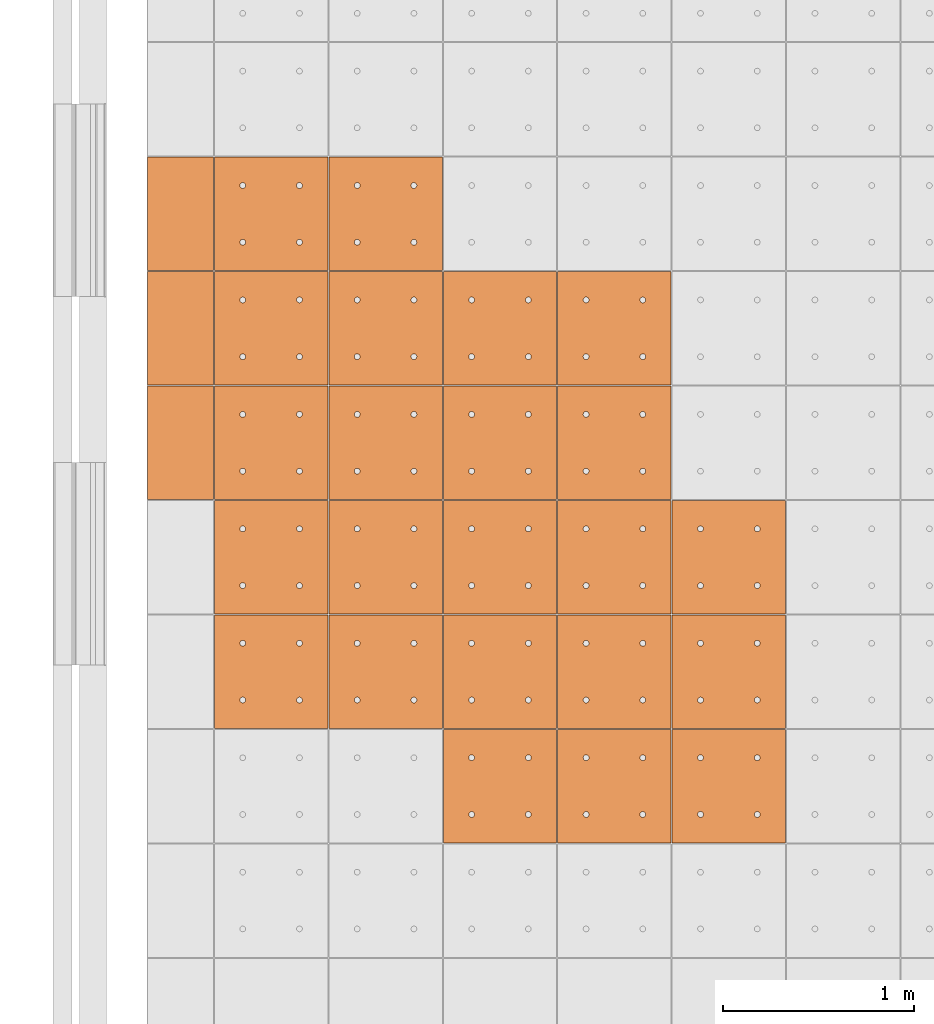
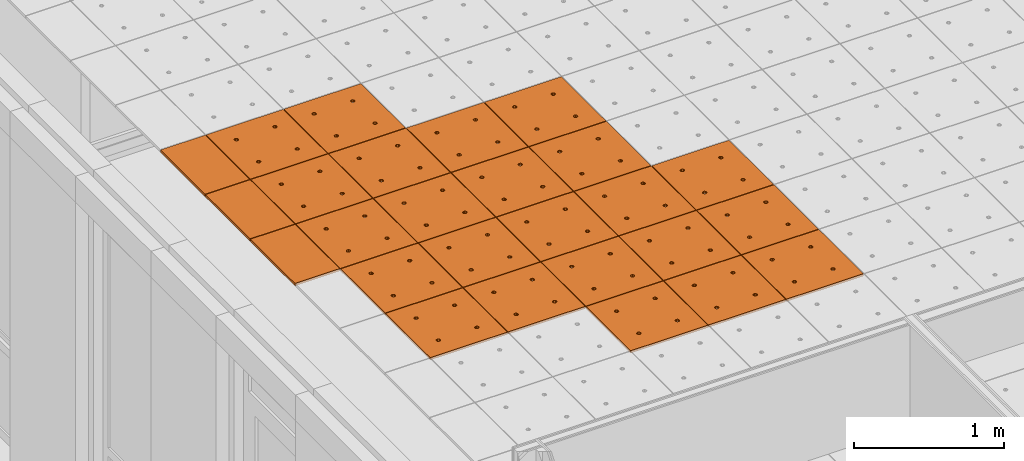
# One storey, part 245 of 338: 26 proxies, 1 element without a shape of its own.
"""IFC2X3 building model written with IfcOpenShell, lengths in millimetres."""

from ifc_helpers import new_model, entity, si_unit, converted_unit, derived_unit, money_unit, direction, frame, origin_with_axes, place, context, subcontext, project, spatial, faceted_brep, source, transform, mapped, material, type_object, type_shapes, element, aggregate, save


model = new_model("IFC2X3")

# Units and contexts
model_context = context("Model", 3, precision=0.01, world=origin_with_axes(), true_north=direction((0.0, 1.0)))
plan_context = context("Plan", 3, precision=0.01, world=origin_with_axes(), true_north=direction((0.0, 1.0)))
body_context = subcontext(model_context, "Body", "Model", "MODEL_VIEW")
ifc_project = project(units=[si_unit("LENGTHUNIT", "METRE", prefix="MILLI"), si_unit("AREAUNIT", "SQUARE_METRE"), si_unit("VOLUMEUNIT", "CUBIC_METRE"), converted_unit("PLANEANGLEUNIT", "DEGREE", entity("IfcPlaneAngleMeasure", 0.0174532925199), si_unit("PLANEANGLEUNIT", "RADIAN"), dimensions=[0, 0, 0, 0, 0, 0, 0]), money_unit("EUR"), converted_unit("TIMEUNIT", "Year", entity("IfcTimeMeasure", 31556926.0), si_unit("TIMEUNIT", "SECOND"), dimensions=[0, 0, 1, 0, 0, 0, 0]), si_unit("MASSUNIT", "GRAM", prefix="KILO"), si_unit("THERMODYNAMICTEMPERATUREUNIT", "DEGREE_CELSIUS"), si_unit("LUMINOUSINTENSITYUNIT", "LUMEN"), si_unit("ENERGYUNIT", "JOULE", prefix="MEGA"), derived_unit("THERMALCONDUCTANCEUNIT", [(si_unit("POWERUNIT", "WATT"), 1), (si_unit("LENGTHUNIT", "METRE"), -1), (si_unit("THERMODYNAMICTEMPERATUREUNIT", "KELVIN"), -1)]), derived_unit("SPECIFICHEATCAPACITYUNIT", [(si_unit("ENERGYUNIT", "JOULE"), 1), (si_unit("MASSUNIT", "GRAM", prefix="KILO"), -1), (si_unit("THERMODYNAMICTEMPERATUREUNIT", "KELVIN"), -1)]), derived_unit("MASSDENSITYUNIT", [(si_unit("MASSUNIT", "GRAM", prefix="KILO"), 1), (si_unit("VOLUMEUNIT", "CUBIC_METRE"), -1)])], contexts=[model_context, plan_context])

# Site, building, storey
site_placement = place(None, origin_with_axes())
site = spatial("IfcSite", under=ifc_project, at=site_placement, Name="Fortuinstraat Woensdrecht", CompositionType="ELEMENT")
building_placement = place(site_placement, origin_with_axes())
building = spatial("IfcBuilding", under=site, at=building_placement, Name="IKC Fortuna", CompositionType="ELEMENT")
storey_placement = place(building_placement, origin_with_axes())
storey = spatial("IfcBuildingStorey", under=building, at=storey_placement, Name="00 begane grond", CompositionType="ELEMENT", Elevation=0.0)

# Covering, proxies
covering_type = type_object("IfcCoveringType", Name="Curtain Wall Type", PredefinedType="CEILING")
covering_placement = place(storey_placement, frame((15059.4416165, 34009.703821, 3210.0), z_axis=(0.0, 0.0, 1.0), x_axis=(1.0, 0.0, 0.0)))
covering = element("IfcCovering", 1, at=covering_placement, inside=storey, type_object=covering_type, Name="45_Plafondafwerking_P01", PredefinedType="CEILING")
ifc_material = material(Name="Gipsplaat")
building_element_proxy_type_1 = type_object("IfcBuildingElementProxyType", Name="Distinct Panel 600 x 600 x 20", PredefinedType="NOTDEFINED")
shared_shape_1 = source(origin_with_axes(), body_context, "Body", "Brep", [
    faceted_brep([(2.49999999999, 2.49999999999, -10.0), (300.0, 2.49999999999, -10.0), (300.0, 2.49999999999, 10.0), (2.49999999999, 2.49999999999, 10.0), (2.49999999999, 300.0, -10.0), (2.49999999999, 597.5, -10.0), (300.0, 597.5, -10.0), (597.5, 597.5, -10.0), (597.5, 300.0, -10.0), (597.5, 2.49999999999, -10.0), (166.25, 450.06232995, -10.0), (165.79423259, 452.64711538, -10.0), (164.896546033, 455.11348892, -10.0), (163.58421608, 457.38651108, -10.0), (161.897117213, 459.39711721, -10.0), (159.886511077, 461.08421608, -10.0), (157.613488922, 462.39654603, -10.0), (155.147115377, 463.29423259, -10.0), (152.562329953, 463.75, -10.0), (149.937670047, 463.75, -10.0), (147.352884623, 463.29423259, -10.0), (144.886511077, 462.39654603, -10.0), (142.613488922, 461.08421608, -10.0), (140.602882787, 459.39711721, -10.0), (138.91578392, 457.38651108, -10.0), (137.603453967, 455.11348892, -10.0), (136.705767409, 452.64711538, -10.0), (136.25, 450.06232995, -10.0), (136.25, 448.75, -10.0), (136.25, 447.43767005, -10.0), (136.705767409, 444.85288462, -10.0), (137.603453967, 442.38651108, -10.0), (138.91578392, 440.11348892, -10.0), (140.602882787, 438.10288279, -10.0), (142.613488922, 436.41578392, -10.0), (144.886511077, 435.10345397, -10.0), (147.352884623, 434.20576741, -10.0), (149.937670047, 433.75, -10.0), (152.562329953, 433.75, -10.0), (155.147115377, 434.20576741, -10.0), (157.613488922, 435.10345397, -10.0), (159.886511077, 436.41578392, -10.0), (161.897117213, 438.10288279, -10.0), (163.58421608, 440.11348892, -10.0), (164.896546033, 442.38651108, -10.0), (165.79423259, 444.85288462, -10.0), (166.25, 447.43767005, -10.0), (463.75, 450.06232995, -10.0), (463.29423259, 452.64711538, -10.0), (462.396546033, 455.11348892, -10.0), (461.08421608, 457.38651108, -10.0), (459.397117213, 459.39711721, -10.0), (457.386511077, 461.08421608, -10.0), (455.113488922, 462.39654603, -10.0), (452.647115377, 463.29423259, -10.0), (450.062329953, 463.75, -10.0), (447.437670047, 463.75, -10.0), (444.852884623, 463.29423259, -10.0), (442.386511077, 462.39654603, -10.0), (440.113488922, 461.08421608, -10.0), (438.102882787, 459.39711721, -10.0), (436.41578392, 457.38651108, -10.0), (435.103453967, 455.11348892, -10.0), (434.205767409, 452.64711538, -10.0), (433.75, 450.06232995, -10.0), (433.75, 448.75, -10.0), (433.75, 447.43767005, -10.0), (434.205767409, 444.85288462, -10.0), (435.103453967, 442.38651108, -10.0), (436.41578392, 440.11348892, -10.0), (438.102882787, 438.10288279, -10.0), (440.113488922, 436.41578392, -10.0), (442.386511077, 435.10345397, -10.0), (444.852884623, 434.20576741, -10.0), (447.437670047, 433.75, -10.0), (450.062329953, 433.75, -10.0), (452.647115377, 434.20576741, -10.0), (455.113488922, 435.10345397, -10.0), (457.386511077, 436.41578392, -10.0), (459.397117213, 438.10288279, -10.0), (461.08421608, 440.11348892, -10.0), (462.396546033, 442.38651108, -10.0), (463.29423259, 444.85288462, -10.0), (463.75, 447.43767005, -10.0), (463.75, 152.56232995, -10.0), (463.29423259, 155.14711538, -10.0), (462.396546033, 157.61348892, -10.0), (461.08421608, 159.88651108, -10.0), (459.397117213, 161.89711721, -10.0), (457.386511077, 163.58421608, -10.0), (455.113488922, 164.89654603, -10.0), (452.647115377, 165.79423259, -10.0), (450.062329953, 166.25, -10.0), (447.437670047, 166.25, -10.0), (444.852884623, 165.79423259, -10.0), (442.386511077, 164.89654603, -10.0), (440.113488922, 163.58421608, -10.0), (438.102882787, 161.89711721, -10.0), (436.41578392, 159.88651108, -10.0), (435.103453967, 157.61348892, -10.0), (434.205767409, 155.14711538, -10.0), (433.75, 152.56232995, -10.0), (433.75, 151.25, -10.0), (433.75, 149.93767005, -10.0), (434.205767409, 147.35288462, -10.0), (435.103453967, 144.88651108, -10.0), (436.41578392, 142.61348892, -10.0), (438.102882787, 140.60288279, -10.0), (440.113488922, 138.91578392, -10.0), (442.386511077, 137.60345397, -10.0), (444.852884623, 136.70576741, -10.0), (447.437670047, 136.25, -10.0), (450.062329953, 136.25, -10.0), (452.647115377, 136.70576741, -10.0), (455.113488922, 137.60345397, -10.0), (457.386511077, 138.91578392, -10.0), (459.397117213, 140.60288279, -10.0), (461.08421608, 142.61348892, -10.0), (462.396546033, 144.88651108, -10.0), (463.29423259, 147.35288462, -10.0), (463.75, 149.93767005, -10.0), (166.25, 152.56232995, -10.0), (165.79423259, 155.14711538, -10.0), (164.896546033, 157.61348892, -10.0), (163.58421608, 159.88651108, -10.0), (161.897117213, 161.89711721, -10.0), (159.886511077, 163.58421608, -10.0), (157.613488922, 164.89654603, -10.0), (155.147115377, 165.79423259, -10.0), (152.562329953, 166.25, -10.0), (149.937670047, 166.25, -10.0), (147.352884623, 165.79423259, -10.0), (144.886511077, 164.89654603, -10.0), (142.613488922, 163.58421608, -10.0), (140.602882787, 161.89711721, -10.0), (138.91578392, 159.88651108, -10.0), (137.603453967, 157.61348892, -10.0), (136.705767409, 155.14711538, -10.0), (136.25, 152.56232995, -10.0), (136.25, 151.25, -10.0), (136.25, 149.93767005, -10.0), (136.705767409, 147.35288462, -10.0), (137.603453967, 144.88651108, -10.0), (138.91578392, 142.61348892, -10.0), (140.602882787, 140.60288279, -10.0), (142.613488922, 138.91578392, -10.0), (144.886511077, 137.60345397, -10.0), (147.352884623, 136.70576741, -10.0), (149.937670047, 136.25, -10.0), (152.562329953, 136.25, -10.0), (155.147115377, 136.70576741, -10.0), (157.613488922, 137.60345397, -10.0), (159.886511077, 138.91578392, -10.0), (161.897117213, 140.60288279, -10.0), (163.58421608, 142.61348892, -10.0), (164.896546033, 144.88651108, -10.0), (165.79423259, 147.35288462, -10.0), (166.25, 149.93767005, -10.0), (597.5, 2.49999999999, 10.0), (597.5, 300.0, 10.0), (597.5, 597.5, 10.0), (300.0, 597.5, 10.0), (2.49999999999, 597.5, 10.0), (2.49999999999, 300.0, 10.0), (166.25, 450.06232995, 10.0), (166.25, 447.43767005, 10.0), (165.79423259, 444.85288462, 10.0), (164.896546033, 442.38651108, 10.0), (163.58421608, 440.11348892, 10.0), (161.897117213, 438.10288279, 10.0), (159.886511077, 436.41578392, 10.0), (157.613488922, 435.10345397, 10.0), (155.147115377, 434.20576741, 10.0), (152.562329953, 433.75, 10.0), (149.937670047, 433.75, 10.0), (147.352884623, 434.20576741, 10.0), (144.886511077, 435.10345397, 10.0), (142.613488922, 436.41578392, 10.0), (140.602882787, 438.10288279, 10.0), (138.91578392, 440.11348892, 10.0), (137.603453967, 442.38651108, 10.0), (136.705767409, 444.85288462, 10.0), (136.25, 447.43767005, 10.0), (136.25, 448.75, 10.0), (136.25, 450.06232995, 10.0), (136.705767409, 452.64711538, 10.0), (137.603453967, 455.11348892, 10.0), (138.91578392, 457.38651108, 10.0), (140.602882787, 459.39711721, 10.0), (142.613488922, 461.08421608, 10.0), (144.886511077, 462.39654603, 10.0), (147.352884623, 463.29423259, 10.0), (149.937670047, 463.75, 10.0), (152.562329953, 463.75, 10.0), (155.147115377, 463.29423259, 10.0), (157.613488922, 462.39654603, 10.0), (159.886511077, 461.08421608, 10.0), (161.897117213, 459.39711721, 10.0), (163.58421608, 457.38651108, 10.0), (164.896546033, 455.11348892, 10.0), (165.79423259, 452.64711538, 10.0), (463.75, 450.06232995, 10.0), (463.75, 447.43767005, 10.0), (463.29423259, 444.85288462, 10.0), (462.396546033, 442.38651108, 10.0), (461.08421608, 440.11348892, 10.0), (459.397117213, 438.10288279, 10.0), (457.386511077, 436.41578392, 10.0), (455.113488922, 435.10345397, 10.0), (452.647115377, 434.20576741, 10.0), (450.062329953, 433.75, 10.0), (447.437670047, 433.75, 10.0), (444.852884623, 434.20576741, 10.0), (442.386511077, 435.10345397, 10.0), (440.113488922, 436.41578392, 10.0), (438.102882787, 438.10288279, 10.0), (436.41578392, 440.11348892, 10.0), (435.103453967, 442.38651108, 10.0), (434.205767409, 444.85288462, 10.0), (433.75, 447.43767005, 10.0), (433.75, 448.75, 10.0), (433.75, 450.06232995, 10.0), (434.205767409, 452.64711538, 10.0), (435.103453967, 455.11348892, 10.0), (436.41578392, 457.38651108, 10.0), (438.102882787, 459.39711721, 10.0), (440.113488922, 461.08421608, 10.0), (442.386511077, 462.39654603, 10.0), (444.852884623, 463.29423259, 10.0), (447.437670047, 463.75, 10.0), (450.062329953, 463.75, 10.0), (452.647115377, 463.29423259, 10.0), (455.113488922, 462.39654603, 10.0), (457.386511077, 461.08421608, 10.0), (459.397117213, 459.39711721, 10.0), (461.08421608, 457.38651108, 10.0), (462.396546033, 455.11348892, 10.0), (463.29423259, 452.64711538, 10.0), (463.75, 152.56232995, 10.0), (463.75, 149.93767005, 10.0), (463.29423259, 147.35288462, 10.0), (462.396546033, 144.88651108, 10.0), (461.08421608, 142.61348892, 10.0), (459.397117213, 140.60288279, 10.0), (457.386511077, 138.91578392, 10.0), (455.113488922, 137.60345397, 10.0), (452.647115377, 136.70576741, 10.0), (450.062329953, 136.25, 10.0), (447.437670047, 136.25, 10.0), (444.852884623, 136.70576741, 10.0), (442.386511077, 137.60345397, 10.0), (440.113488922, 138.91578392, 10.0), (438.102882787, 140.60288279, 10.0), (436.41578392, 142.61348892, 10.0), (435.103453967, 144.88651108, 10.0), (434.205767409, 147.35288462, 10.0), (433.75, 149.93767005, 10.0), (433.75, 151.25, 10.0), (433.75, 152.56232995, 10.0), (434.205767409, 155.14711538, 10.0), (435.103453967, 157.61348892, 10.0), (436.41578392, 159.88651108, 10.0), (438.102882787, 161.89711721, 10.0), (440.113488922, 163.58421608, 10.0), (442.386511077, 164.89654603, 10.0), (444.852884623, 165.79423259, 10.0), (447.437670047, 166.25, 10.0), (450.062329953, 166.25, 10.0), (452.647115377, 165.79423259, 10.0), (455.113488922, 164.89654603, 10.0), (457.386511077, 163.58421608, 10.0), (459.397117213, 161.89711721, 10.0), (461.08421608, 159.88651108, 10.0), (462.396546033, 157.61348892, 10.0), (463.29423259, 155.14711538, 10.0), (166.25, 152.56232995, 10.0), (166.25, 149.93767005, 10.0), (165.79423259, 147.35288462, 10.0), (164.896546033, 144.88651108, 10.0), (163.58421608, 142.61348892, 10.0), (161.897117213, 140.60288279, 10.0), (159.886511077, 138.91578392, 10.0), (157.613488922, 137.60345397, 10.0), (155.147115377, 136.70576741, 10.0), (152.562329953, 136.25, 10.0), (149.937670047, 136.25, 10.0), (147.352884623, 136.70576741, 10.0), (144.886511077, 137.60345397, 10.0), (142.613488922, 138.91578392, 10.0), (140.602882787, 140.60288279, 10.0), (138.91578392, 142.61348892, 10.0), (137.603453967, 144.88651108, 10.0), (136.705767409, 147.35288462, 10.0), (136.25, 149.93767005, 10.0), (136.25, 151.25, 10.0), (136.25, 152.56232995, 10.0), (136.705767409, 155.14711538, 10.0), (137.603453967, 157.61348892, 10.0), (138.91578392, 159.88651108, 10.0), (140.602882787, 161.89711721, 10.0), (142.613488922, 163.58421608, 10.0), (144.886511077, 164.89654603, 10.0), (147.352884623, 165.79423259, 10.0), (149.937670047, 166.25, 10.0), (152.562329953, 166.25, 10.0), (155.147115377, 165.79423259, 10.0), (157.613488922, 164.89654603, 10.0), (159.886511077, 163.58421608, 10.0), (161.897117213, 161.89711721, 10.0), (163.58421608, 159.88651108, 10.0), (164.896546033, 157.61348892, 10.0), (165.79423259, 155.14711538, 10.0)], [[[0, 1, 2, 3]], [[0, 4, 5, 6, 7, 8, 9, 1], [10, 11, 12, 13, 14, 15, 16, 17, 18, 19, 20, 21, 22, 23, 24, 25, 26, 27, 28, 29, 30, 31, 32, 33, 34, 35, 36, 37, 38, 39, 40, 41, 42, 43, 44, 45, 46], [47, 48, 49, 50, 51, 52, 53, 54, 55, 56, 57, 58, 59, 60, 61, 62, 63, 64, 65, 66, 67, 68, 69, 70, 71, 72, 73, 74, 75, 76, 77, 78, 79, 80, 81, 82, 83], [84, 85, 86, 87, 88, 89, 90, 91, 92, 93, 94, 95, 96, 97, 98, 99, 100, 101, 102, 103, 104, 105, 106, 107, 108, 109, 110, 111, 112, 113, 114, 115, 116, 117, 118, 119, 120], [121, 122, 123, 124, 125, 126, 127, 128, 129, 130, 131, 132, 133, 134, 135, 136, 137, 138, 139, 140, 141, 142, 143, 144, 145, 146, 147, 148, 149, 150, 151, 152, 153, 154, 155, 156, 157]], [[1, 9, 158, 2]], [[3, 2, 158, 159, 160, 161, 162, 163], [164, 165, 166, 167, 168, 169, 170, 171, 172, 173, 174, 175, 176, 177, 178, 179, 180, 181, 182, 183, 184, 185, 186, 187, 188, 189, 190, 191, 192, 193, 194, 195, 196, 197, 198, 199, 200], [201, 202, 203, 204, 205, 206, 207, 208, 209, 210, 211, 212, 213, 214, 215, 216, 217, 218, 219, 220, 221, 222, 223, 224, 225, 226, 227, 228, 229, 230, 231, 232, 233, 234, 235, 236, 237], [238, 239, 240, 241, 242, 243, 244, 245, 246, 247, 248, 249, 250, 251, 252, 253, 254, 255, 256, 257, 258, 259, 260, 261, 262, 263, 264, 265, 266, 267, 268, 269, 270, 271, 272, 273, 274], [275, 276, 277, 278, 279, 280, 281, 282, 283, 284, 285, 286, 287, 288, 289, 290, 291, 292, 293, 294, 295, 296, 297, 298, 299, 300, 301, 302, 303, 304, 305, 306, 307, 308, 309, 310, 311]], [[4, 0, 3, 163]], [[5, 4, 163, 162]], [[6, 5, 162, 161]], [[7, 6, 161, 160]], [[8, 7, 160, 159]], [[9, 8, 159, 158]], [[11, 10, 164, 200]], [[12, 11, 200, 199]], [[13, 12, 199, 198]], [[14, 13, 198, 197]], [[15, 14, 197, 196]], [[16, 15, 196, 195]], [[17, 16, 195, 194]], [[18, 17, 194, 193]], [[19, 18, 193, 192]], [[20, 19, 192, 191]], [[21, 20, 191, 190]], [[22, 21, 190, 189]], [[23, 22, 189, 188]], [[24, 23, 188, 187]], [[25, 24, 187, 186]], [[26, 25, 186, 185]], [[27, 26, 185, 184]], [[28, 27, 184, 183]], [[29, 28, 183, 182]], [[30, 29, 182, 181]], [[31, 30, 181, 180]], [[32, 31, 180, 179]], [[33, 32, 179, 178]], [[34, 33, 178, 177]], [[35, 34, 177, 176]], [[36, 35, 176, 175]], [[37, 36, 175, 174]], [[38, 37, 174, 173]], [[39, 38, 173, 172]], [[40, 39, 172, 171]], [[41, 40, 171, 170]], [[42, 41, 170, 169]], [[43, 42, 169, 168]], [[44, 43, 168, 167]], [[45, 44, 167, 166]], [[46, 45, 166, 165]], [[10, 46, 165, 164]], [[48, 47, 201, 237]], [[49, 48, 237, 236]], [[50, 49, 236, 235]], [[51, 50, 235, 234]], [[52, 51, 234, 233]], [[53, 52, 233, 232]], [[54, 53, 232, 231]], [[55, 54, 231, 230]], [[56, 55, 230, 229]], [[57, 56, 229, 228]], [[58, 57, 228, 227]], [[59, 58, 227, 226]], [[60, 59, 226, 225]], [[61, 60, 225, 224]], [[62, 61, 224, 223]], [[63, 62, 223, 222]], [[64, 63, 222, 221]], [[65, 64, 221, 220]], [[66, 65, 220, 219]], [[67, 66, 219, 218]], [[68, 67, 218, 217]], [[69, 68, 217, 216]], [[70, 69, 216, 215]], [[71, 70, 215, 214]], [[72, 71, 214, 213]], [[73, 72, 213, 212]], [[74, 73, 212, 211]], [[75, 74, 211, 210]], [[76, 75, 210, 209]], [[77, 76, 209, 208]], [[78, 77, 208, 207]], [[79, 78, 207, 206]], [[80, 79, 206, 205]], [[81, 80, 205, 204]], [[82, 81, 204, 203]], [[83, 82, 203, 202]], [[47, 83, 202, 201]], [[85, 84, 238, 274]], [[86, 85, 274, 273]], [[87, 86, 273, 272]], [[88, 87, 272, 271]], [[89, 88, 271, 270]], [[90, 89, 270, 269]], [[91, 90, 269, 268]], [[92, 91, 268, 267]], [[93, 92, 267, 266]], [[94, 93, 266, 265]], [[95, 94, 265, 264]], [[96, 95, 264, 263]], [[97, 96, 263, 262]], [[98, 97, 262, 261]], [[99, 98, 261, 260]], [[100, 99, 260, 259]], [[101, 100, 259, 258]], [[102, 101, 258, 257]], [[103, 102, 257, 256]], [[104, 103, 256, 255]], [[105, 104, 255, 254]], [[106, 105, 254, 253]], [[107, 106, 253, 252]], [[108, 107, 252, 251]], [[109, 108, 251, 250]], [[110, 109, 250, 249]], [[111, 110, 249, 248]], [[112, 111, 248, 247]], [[113, 112, 247, 246]], [[114, 113, 246, 245]], [[115, 114, 245, 244]], [[116, 115, 244, 243]], [[117, 116, 243, 242]], [[118, 117, 242, 241]], [[119, 118, 241, 240]], [[120, 119, 240, 239]], [[84, 120, 239, 238]], [[122, 121, 275, 311]], [[123, 122, 311, 310]], [[124, 123, 310, 309]], [[125, 124, 309, 308]], [[126, 125, 308, 307]], [[127, 126, 307, 306]], [[128, 127, 306, 305]], [[129, 128, 305, 304]], [[130, 129, 304, 303]], [[131, 130, 303, 302]], [[132, 131, 302, 301]], [[133, 132, 301, 300]], [[134, 133, 300, 299]], [[135, 134, 299, 298]], [[136, 135, 298, 297]], [[137, 136, 297, 296]], [[138, 137, 296, 295]], [[139, 138, 295, 294]], [[140, 139, 294, 293]], [[141, 140, 293, 292]], [[142, 141, 292, 291]], [[143, 142, 291, 290]], [[144, 143, 290, 289]], [[145, 144, 289, 288]], [[146, 145, 288, 287]], [[147, 146, 287, 286]], [[148, 147, 286, 285]], [[149, 148, 285, 284]], [[150, 149, 284, 283]], [[151, 150, 283, 282]], [[152, 151, 282, 281]], [[153, 152, 281, 280]], [[154, 153, 280, 279]], [[155, 154, 279, 278]], [[156, 155, 278, 277]], [[157, 156, 277, 276]], [[121, 157, 276, 275]]]),
])
type_shapes(building_element_proxy_type_1, [shared_shape_1])
proxy_1_placement = place(covering_placement, frame((600.0, -4800.0, 1.56763491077e-10), z_axis=(0.0, 0.0, 1.0), x_axis=(1.0, 0.0, 0.0)))
proxy_1 = element("IfcBuildingElementProxy", 2, at=proxy_1_placement, type_object=building_element_proxy_type_1, material=ifc_material, Name="__Panel-D", context=body_context, shape_type="MappedRepresentation", body=[
    mapped(shared_shape_1, transform((300.0, 300.0, 0.0), x_axis=(-1.0, 0.0, 0.0), y_axis=(0.0, -1.0, 0.0), z_axis=(0.0, 0.0, 1.0))),
])
proxy_2_placement = place(covering_placement, frame((-600.0, -4200.0, 1.95843341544e-10), z_axis=(0.0, 0.0, 1.0), x_axis=(1.0, 0.0, 0.0)))
proxy_2 = element("IfcBuildingElementProxy", 3, at=proxy_2_placement, type_object=building_element_proxy_type_1, material=ifc_material, Name="__Panel-D", context=body_context, shape_type="MappedRepresentation", body=[
    mapped(shared_shape_1, transform((300.0, 300.0, 0.0), x_axis=(-1.0, 0.0, 0.0), y_axis=(0.0, -1.0, 0.0), z_axis=(0.0, 0.0, 1.0))),
])
proxy_3_placement = place(covering_placement, frame((-600.0, -3600.0, 1.95843341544e-10), z_axis=(0.0, 0.0, 1.0), x_axis=(1.0, 0.0, 0.0)))
proxy_3 = element("IfcBuildingElementProxy", 4, at=proxy_3_placement, type_object=building_element_proxy_type_1, material=ifc_material, Name="__Panel-D", context=body_context, shape_type="MappedRepresentation", body=[
    mapped(shared_shape_1, transform((300.0, 300.0, 0.0), x_axis=(-1.0, 0.0, 0.0), y_axis=(0.0, -1.0, 0.0), z_axis=(0.0, 0.0, 1.0))),
])
proxy_4_placement = place(covering_placement, frame((1200.0, -4800.0, 1.37223565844e-10), z_axis=(0.0, 0.0, 1.0), x_axis=(1.0, 0.0, 0.0)))
proxy_4 = element("IfcBuildingElementProxy", 5, at=proxy_4_placement, type_object=building_element_proxy_type_1, material=ifc_material, Name="__Panel-D", context=body_context, shape_type="MappedRepresentation", body=[
    mapped(shared_shape_1, transform((300.0, 300.0, 0.0), x_axis=(-1.0, 0.0, 0.0), y_axis=(0.0, -1.0, 0.0), z_axis=(0.0, 0.0, 1.0))),
])
proxy_5_placement = place(covering_placement, frame((0.0, -4200.0, 1.7630341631e-10), z_axis=(0.0, 0.0, 1.0), x_axis=(1.0, 0.0, 0.0)))
proxy_5 = element("IfcBuildingElementProxy", 6, at=proxy_5_placement, type_object=building_element_proxy_type_1, material=ifc_material, Name="__Panel-D", context=body_context, shape_type="MappedRepresentation", body=[
    mapped(shared_shape_1, transform((300.0, 300.0, 0.0), x_axis=(-1.0, 0.0, 0.0), y_axis=(0.0, -1.0, 0.0), z_axis=(0.0, 0.0, 1.0))),
])
proxy_6_placement = place(covering_placement, frame((0.0, -3600.0, 1.7630341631e-10), z_axis=(0.0, 0.0, 1.0), x_axis=(1.0, 0.0, 0.0)))
proxy_6 = element("IfcBuildingElementProxy", 7, at=proxy_6_placement, type_object=building_element_proxy_type_1, material=ifc_material, Name="__Panel-D", context=body_context, shape_type="MappedRepresentation", body=[
    mapped(shared_shape_1, transform((300.0, 300.0, 0.0), x_axis=(-1.0, 0.0, 0.0), y_axis=(0.0, -1.0, 0.0), z_axis=(0.0, 0.0, 1.0))),
])
proxy_7_placement = place(covering_placement, frame((600.0, -4200.0, 1.56763491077e-10), z_axis=(0.0, 0.0, 1.0), x_axis=(1.0, 0.0, 0.0)))
proxy_7 = element("IfcBuildingElementProxy", 8, at=proxy_7_placement, type_object=building_element_proxy_type_1, material=ifc_material, Name="__Panel-D", context=body_context, shape_type="MappedRepresentation", body=[
    mapped(shared_shape_1, transform((300.0, 300.0, 0.0), x_axis=(-1.0, 0.0, 0.0), y_axis=(0.0, -1.0, 0.0), z_axis=(0.0, 0.0, 1.0))),
])
proxy_8_placement = place(covering_placement, frame((600.0, -3600.0, 1.56763491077e-10), z_axis=(0.0, 0.0, 1.0), x_axis=(1.0, 0.0, 0.0)))
proxy_8 = element("IfcBuildingElementProxy", 9, at=proxy_8_placement, type_object=building_element_proxy_type_1, material=ifc_material, Name="__Panel-D", context=body_context, shape_type="MappedRepresentation", body=[
    mapped(shared_shape_1, transform((300.0, 300.0, 0.0), x_axis=(-1.0, 0.0, 0.0), y_axis=(0.0, -1.0, 0.0), z_axis=(0.0, 0.0, 1.0))),
])
proxy_9_placement = place(covering_placement, frame((1800.0, -6000.0, 1.172395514e-10), z_axis=(0.0, 0.0, 1.0), x_axis=(1.0, 0.0, 0.0)))
proxy_9 = element("IfcBuildingElementProxy", 10, at=proxy_9_placement, type_object=building_element_proxy_type_1, material=ifc_material, Name="__Panel-D", context=body_context, shape_type="MappedRepresentation", body=[
    mapped(shared_shape_1, transform((300.0, 300.0, 0.0), x_axis=(-1.0, 0.0, 0.0), y_axis=(0.0, -1.0, 0.0), z_axis=(0.0, 0.0, 1.0))),
])
proxy_10_placement = place(covering_placement, frame((1200.0, -4200.0, 1.37223565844e-10), z_axis=(0.0, 0.0, 1.0), x_axis=(1.0, 0.0, 0.0)))
proxy_10 = element("IfcBuildingElementProxy", 11, at=proxy_10_placement, type_object=building_element_proxy_type_1, material=ifc_material, Name="__Panel-D", context=body_context, shape_type="MappedRepresentation", body=[
    mapped(shared_shape_1, transform((300.0, 300.0, 0.0), x_axis=(-1.0, 0.0, 0.0), y_axis=(0.0, -1.0, 0.0), z_axis=(0.0, 0.0, 1.0))),
])
proxy_11_placement = place(covering_placement, frame((1200.0, -3600.0, 1.37223565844e-10), z_axis=(0.0, 0.0, 1.0), x_axis=(1.0, 0.0, 0.0)))
proxy_11 = element("IfcBuildingElementProxy", 12, at=proxy_11_placement, type_object=building_element_proxy_type_1, material=ifc_material, Name="__Panel-D", context=body_context, shape_type="MappedRepresentation", body=[
    mapped(shared_shape_1, transform((300.0, 300.0, 0.0), x_axis=(-1.0, 0.0, 0.0), y_axis=(0.0, -1.0, 0.0), z_axis=(0.0, 0.0, 1.0))),
])
proxy_12_placement = place(covering_placement, frame((0.0, -3000.0, 1.7630341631e-10), z_axis=(0.0, 0.0, 1.0), x_axis=(1.0, 0.0, 0.0)))
proxy_12 = element("IfcBuildingElementProxy", 13, at=proxy_12_placement, type_object=building_element_proxy_type_1, material=ifc_material, Name="__Panel-D", context=body_context, shape_type="MappedRepresentation", body=[
    mapped(shared_shape_1, transform((300.0, 300.0, 0.0), x_axis=(-1.0, 0.0, 0.0), y_axis=(0.0, -1.0, 0.0), z_axis=(0.0, 0.0, 1.0))),
])
proxy_13_placement = place(covering_placement, frame((-600.0, -3000.0, 1.95843341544e-10), z_axis=(0.0, 0.0, 1.0), x_axis=(1.0, 0.0, 0.0)))
proxy_13 = element("IfcBuildingElementProxy", 14, at=proxy_13_placement, type_object=building_element_proxy_type_1, material=ifc_material, Name="__Panel-D", context=body_context, shape_type="MappedRepresentation", body=[
    mapped(shared_shape_1, transform((300.0, 300.0, 0.0), x_axis=(-1.0, 0.0, 0.0), y_axis=(0.0, -1.0, 0.0), z_axis=(0.0, 0.0, 1.0))),
])
proxy_14_placement = place(covering_placement, frame((600.0, -6000.0, 1.56763491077e-10), z_axis=(0.0, 0.0, 1.0), x_axis=(1.0, 0.0, 0.0)))
proxy_14 = element("IfcBuildingElementProxy", 15, at=proxy_14_placement, type_object=building_element_proxy_type_1, material=ifc_material, Name="__Panel-D", context=body_context, shape_type="MappedRepresentation", body=[
    mapped(shared_shape_1, transform((300.0, 300.0, 0.0), x_axis=(-1.0, 0.0, 0.0), y_axis=(0.0, -1.0, 0.0), z_axis=(0.0, 0.0, 1.0))),
])
proxy_15_placement = place(covering_placement, frame((1800.0, -4800.0, 1.172395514e-10), z_axis=(0.0, 0.0, 1.0), x_axis=(1.0, 0.0, 0.0)))
proxy_15 = element("IfcBuildingElementProxy", 16, at=proxy_15_placement, type_object=building_element_proxy_type_1, material=ifc_material, Name="__Panel-D", context=body_context, shape_type="MappedRepresentation", body=[
    mapped(shared_shape_1, transform((300.0, 300.0, 0.0), x_axis=(-1.0, 0.0, 0.0), y_axis=(0.0, -1.0, 0.0), z_axis=(0.0, 0.0, 1.0))),
])
proxy_16_placement = place(covering_placement, frame((1800.0, -5400.0, 1.172395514e-10), z_axis=(0.0, 0.0, 1.0), x_axis=(1.0, 0.0, 0.0)))
proxy_16 = element("IfcBuildingElementProxy", 17, at=proxy_16_placement, type_object=building_element_proxy_type_1, material=ifc_material, Name="__Panel-D", context=body_context, shape_type="MappedRepresentation", body=[
    mapped(shared_shape_1, transform((300.0, 300.0, 0.0), x_axis=(-1.0, 0.0, 0.0), y_axis=(0.0, -1.0, 0.0), z_axis=(0.0, 0.0, 1.0))),
])
proxy_17_placement = place(covering_placement, frame((-600.0, -4800.0, 1.95843341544e-10), z_axis=(0.0, 0.0, 1.0), x_axis=(1.0, 0.0, 0.0)))
proxy_17 = element("IfcBuildingElementProxy", 18, at=proxy_17_placement, type_object=building_element_proxy_type_1, material=ifc_material, Name="__Panel-D", context=body_context, shape_type="MappedRepresentation", body=[
    mapped(shared_shape_1, transform((300.0, 300.0, 0.0), x_axis=(-1.0, 0.0, 0.0), y_axis=(0.0, -1.0, 0.0), z_axis=(0.0, 0.0, 1.0))),
])
proxy_18_placement = place(covering_placement, frame((1200.0, -5400.0, 1.37223565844e-10), z_axis=(0.0, 0.0, 1.0), x_axis=(1.0, 0.0, 0.0)))
proxy_18 = element("IfcBuildingElementProxy", 19, at=proxy_18_placement, type_object=building_element_proxy_type_1, material=ifc_material, Name="__Panel-D", context=body_context, shape_type="MappedRepresentation", body=[
    mapped(shared_shape_1, transform((300.0, 300.0, 0.0), x_axis=(-1.0, 0.0, 0.0), y_axis=(0.0, -1.0, 0.0), z_axis=(0.0, 0.0, 1.0))),
])
proxy_19_placement = place(covering_placement, frame((1200.0, -6000.0, 1.37223565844e-10), z_axis=(0.0, 0.0, 1.0), x_axis=(1.0, 0.0, 0.0)))
proxy_19 = element("IfcBuildingElementProxy", 20, at=proxy_19_placement, type_object=building_element_proxy_type_1, material=ifc_material, Name="__Panel-D", context=body_context, shape_type="MappedRepresentation", body=[
    mapped(shared_shape_1, transform((300.0, 300.0, 0.0), x_axis=(-1.0, 0.0, 0.0), y_axis=(0.0, -1.0, 0.0), z_axis=(0.0, 0.0, 1.0))),
])
proxy_20_placement = place(covering_placement, frame((-600.0, -5400.0, 1.95843341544e-10), z_axis=(0.0, 0.0, 1.0), x_axis=(1.0, 0.0, 0.0)))
proxy_20 = element("IfcBuildingElementProxy", 21, at=proxy_20_placement, type_object=building_element_proxy_type_1, material=ifc_material, Name="__Panel-D", context=body_context, shape_type="MappedRepresentation", body=[
    mapped(shared_shape_1, transform((300.0, 300.0, 0.0), x_axis=(-1.0, 0.0, 0.0), y_axis=(0.0, -1.0, 0.0), z_axis=(0.0, 0.0, 1.0))),
])
proxy_21_placement = place(covering_placement, frame((600.0, -5400.0, 1.56763491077e-10), z_axis=(0.0, 0.0, 1.0), x_axis=(1.0, 0.0, 0.0)))
proxy_21 = element("IfcBuildingElementProxy", 22, at=proxy_21_placement, type_object=building_element_proxy_type_1, material=ifc_material, Name="__Panel-D", context=body_context, shape_type="MappedRepresentation", body=[
    mapped(shared_shape_1, transform((300.0, 300.0, 0.0), x_axis=(-1.0, 0.0, 0.0), y_axis=(0.0, -1.0, 0.0), z_axis=(0.0, 0.0, 1.0))),
])
proxy_22_placement = place(covering_placement, frame((0.0, -4800.0, 1.7630341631e-10), z_axis=(0.0, 0.0, 1.0), x_axis=(1.0, 0.0, 0.0)))
proxy_22 = element("IfcBuildingElementProxy", 23, at=proxy_22_placement, type_object=building_element_proxy_type_1, material=ifc_material, Name="__Panel-D", context=body_context, shape_type="MappedRepresentation", body=[
    mapped(shared_shape_1, transform((300.0, 300.0, 0.0), x_axis=(-1.0, 0.0, 0.0), y_axis=(0.0, -1.0, 0.0), z_axis=(0.0, 0.0, 1.0))),
])
proxy_23_placement = place(covering_placement, frame((0.0, -5400.0, 1.7630341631e-10), z_axis=(0.0, 0.0, 1.0), x_axis=(1.0, 0.0, 0.0)))
proxy_23 = element("IfcBuildingElementProxy", 24, at=proxy_23_placement, type_object=building_element_proxy_type_1, material=ifc_material, Name="__Panel-D", context=body_context, shape_type="MappedRepresentation", body=[
    mapped(shared_shape_1, transform((300.0, 300.0, 0.0), x_axis=(-1.0, 0.0, 0.0), y_axis=(0.0, -1.0, 0.0), z_axis=(0.0, 0.0, 1.0))),
])
building_element_proxy_type_2 = type_object("IfcBuildingElementProxyType", Name="Main Panel 350 x 600 x 20", PredefinedType="NOTDEFINED")
shared_shape_2 = source(origin_with_axes(), body_context, "Body", "Brep", [
    faceted_brep([(2.49999837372, 2.5, -10.0), (347.50666814, 2.49999999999, -10.0), (347.50666814, 2.49999999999, 10.0), (2.49999837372, 2.5, 10.0), (2.49999837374, 597.5, -10.0), (347.506659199, 597.5, -10.0), (347.506659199, 597.5, 10.0), (2.49999837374, 597.5, 10.0)], [[[0, 1, 2, 3]], [[0, 4, 5, 1]], [[1, 5, 6, 2]], [[3, 2, 6, 7]], [[4, 0, 3, 7]], [[5, 4, 7, 6]]]),
])
proxy_24_placement = place(covering_placement, frame((-1075.00330151, -4200.0, 2.11386463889e-10), z_axis=(0.0, 0.0, 1.0), x_axis=(1.0, 0.0, 0.0)))
proxy_24 = element("IfcBuildingElementProxy", 25, at=proxy_24_placement, type_object=building_element_proxy_type_2, material=ifc_material, Name="__Panel-D", context=body_context, shape_type="MappedRepresentation", body=[
    mapped(shared_shape_2, transform((175.003301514, 300.0, 0.0), x_axis=(-1.0, 0.0, 0.0), y_axis=(0.0, -1.0, 0.0), z_axis=(0.0, 0.0, 1.0))),
])
proxy_25_placement = place(covering_placement, frame((-1075.00326896, -3000.0, 2.11386463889e-10), z_axis=(0.0, 0.0, 1.0), x_axis=(1.0, 0.0, 0.0)))
proxy_25 = element("IfcBuildingElementProxy", 26, at=proxy_25_placement, type_object=building_element_proxy_type_2, material=ifc_material, Name="__Panel-D", context=body_context, shape_type="MappedRepresentation", body=[
    mapped(shared_shape_2, transform((175.003268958, 300.0, 0.0), x_axis=(-1.0, 0.0, 0.0), y_axis=(0.0, -1.0, 0.0), z_axis=(0.0, 0.0, 1.0))),
])
shared_shape_3 = source(origin_with_axes(), body_context, "Body", "Brep", [
    faceted_brep([(2.49999837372, 2.5, -10.0), (347.50666814, 2.49999999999, -10.0), (347.50666814, 2.49999999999, 10.0), (2.49999837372, 2.5, 10.0), (2.49999837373, 597.5, -10.0), (347.50666814, 597.5, -10.0), (347.50666814, 597.5, 10.0), (2.49999837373, 597.5, 10.0)], [[[0, 1, 2, 3]], [[0, 4, 5, 1]], [[1, 5, 6, 2]], [[3, 2, 6, 7]], [[4, 0, 3, 7]], [[5, 4, 7, 6]]]),
])
type_shapes(building_element_proxy_type_2, [shared_shape_2, shared_shape_3])
proxy_26_placement = place(covering_placement, frame((-1075.00326896, -3600.0, 2.11386463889e-10), z_axis=(0.0, 0.0, 1.0), x_axis=(1.0, 0.0, 0.0)))
proxy_26 = element("IfcBuildingElementProxy", 27, at=proxy_26_placement, type_object=building_element_proxy_type_2, material=ifc_material, Name="__Panel-D", context=body_context, shape_type="MappedRepresentation", body=[
    mapped(shared_shape_3, transform((175.003268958, 300.0, 0.0), x_axis=(-1.0, 0.0, 0.0), y_axis=(0.0, -1.0, 0.0), z_axis=(0.0, 0.0, 1.0))),
])
aggregate(covering, [proxy_26, proxy_24, proxy_1, proxy_2, proxy_3, proxy_4, proxy_5, proxy_6, proxy_7, proxy_8, proxy_9, proxy_10, proxy_25, proxy_11, proxy_12, proxy_13, proxy_14, proxy_15, proxy_16, proxy_17, proxy_18, proxy_19, proxy_20, proxy_21, proxy_22, proxy_23])

save(model, "model.ifc")
